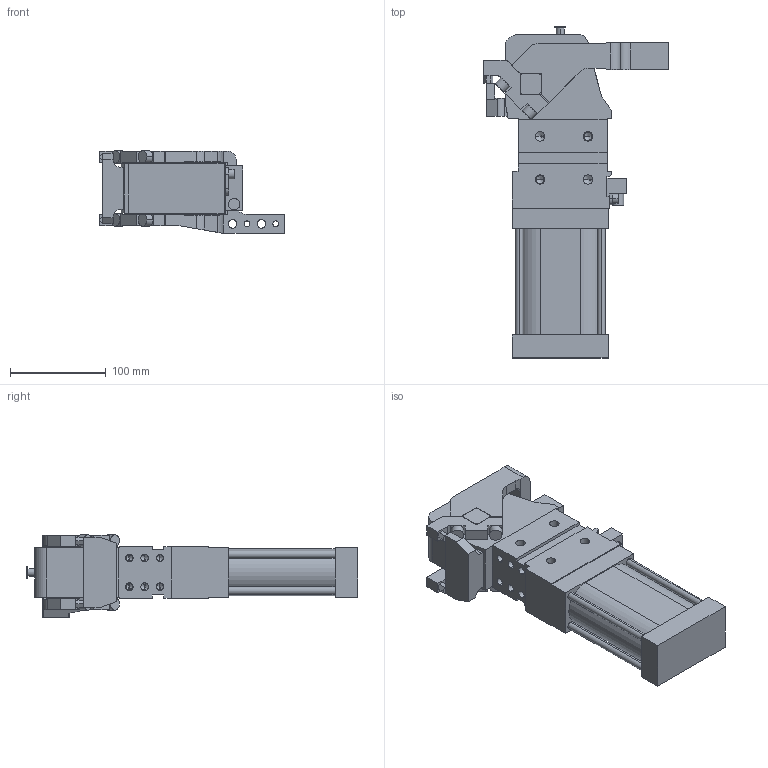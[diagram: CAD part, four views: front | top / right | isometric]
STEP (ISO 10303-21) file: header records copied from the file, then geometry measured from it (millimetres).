
FILE_DESCRIPTION (( 'STEP AP214' ), '1' );
FILE_NAME ('cpl63tv1dsi1g_16.STEP', '2023-01-26T10:32:40', ( '' ), ( '' ), 'SwSTEP 2.0', 'SolidWorks 2022', '' );
FILE_SCHEMA (( 'AUTOMOTIVE_DESIGN' ));
Length unit declared in the file: millimetre
Products named in the file (4): meccanica_cpl_63_tassello_esterno; blocchetto_VEP_0; leva_v1ds_cpl63t; cpl63tv1dsi1g_16
Assembly tree (3 placements, depth 2):
  cpl63tv1dsi1g_16
    meccanica_cpl_63_tassello_esterno
    blocchetto_VEP_0
    leva_v1ds_cpl63t
Bounding box: 193 x 347 x 86.5 mm (x, y, z)
Volume: 1829991.8 mm3; surface area: 198808.8 mm2
Topology: 3 solids, 3 shells, 433 faces, 1142 edges, 709 vertices
Faces by surface type: plane 229, cylinder 154, cone 50
Entity records: 14636 total; most frequent: CARTESIAN_POINT 2346, DIRECTION 2300, ORIENTED_EDGE 2192, EDGE_CURVE 1096, AXIS2_PLACEMENT_3D 777, VECTOR 746, LINE 746, VERTEX_POINT 709
